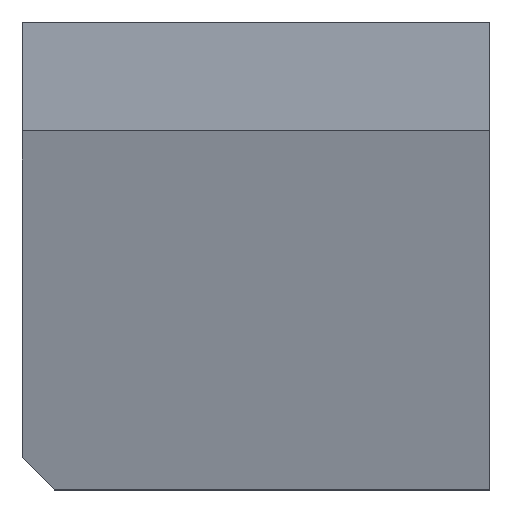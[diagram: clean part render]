
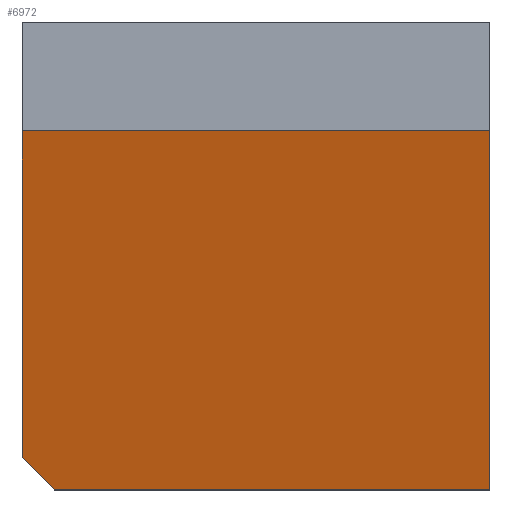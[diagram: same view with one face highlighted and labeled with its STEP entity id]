
A CAD part, left-side view. The second image highlights one B-rep face of the part: STEP entity #6972.
In plain terms, the highlighted planar face has unit normal (-0.943, 0.334, 0).
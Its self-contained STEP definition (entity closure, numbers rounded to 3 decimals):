
#898 = AXIS2_PLACEMENT_3D ( 'NONE', #17093, #25924, #21856 ) ;
#2643 = LINE ( 'NONE', #23575, #7269 ) ;
#2742 = CARTESIAN_POINT ( 'NONE',  ( -5.493, -14.5, 22.25 ) ) ;
#3150 = EDGE_CURVE ( 'NONE', #25749, #23700, #20579, .T. ) ;
#3753 = EDGE_CURVE ( 'NONE', #23700, #12405, #15183, .T. ) ;
#4851 = CARTESIAN_POINT ( 'NONE',  ( -0.988, -1.799, -14.299 ) ) ;
#5084 = LINE ( 'NONE', #28419, #11513 ) ;
#5927 = PLANE ( 'NONE',  #898 ) ;
#5947 = VECTOR ( 'NONE', #10858, 1000. ) ;
#6808 = EDGE_CURVE ( 'NONE', #25749, #17334, #2643, .T. ) ;
#6972 = ADVANCED_FACE ( 'NONE', ( #13383 ), #5927, .T. ) ;
#7251 = CARTESIAN_POINT ( 'NONE',  ( -5.493, -14.5, 0. ) ) ;
#7269 = VECTOR ( 'NONE', #9622, 1000. ) ;
#9622 = DIRECTION ( 'NONE',  ( 0., 0., 1. ) ) ;
#10034 = ORIENTED_EDGE ( 'NONE', *, *, #17751, .F. ) ;
#10858 = DIRECTION ( 'NONE',  ( -0.334, -0.942, 0. ) ) ;
#11513 = VECTOR ( 'NONE', #26236, 1000. ) ;
#11529 = ORIENTED_EDGE ( 'NONE', *, *, #3753, .T. ) ;
#11904 = CARTESIAN_POINT ( 'NONE',  ( 4.793, 14.5, 2. ) ) ;
#12288 = CARTESIAN_POINT ( 'NONE',  ( -5.493, -14.5, 0. ) ) ;
#12405 = VERTEX_POINT ( 'NONE', #7251 ) ;
#12630 = EDGE_CURVE ( 'NONE', #12405, #19209, #5084, .T. ) ;
#13383 = FACE_OUTER_BOUND ( 'NONE', #16929, .T. ) ;
#15183 = LINE ( 'NONE', #12288, #28331 ) ;
#16929 = EDGE_LOOP ( 'NONE', ( #21527, #18156, #11529, #27311, #10034 ) ) ;
#17093 = CARTESIAN_POINT ( 'NONE',  ( -5.493, -14.5, 0. ) ) ;
#17334 = VERTEX_POINT ( 'NONE', #29161 ) ;
#17751 = EDGE_CURVE ( 'NONE', #17334, #19209, #26230, .T. ) ;
#18156 = ORIENTED_EDGE ( 'NONE', *, *, #3150, .T. ) ;
#18676 = DIRECTION ( 'NONE',  ( -0.334, -0.942, 0. ) ) ;
#19209 = VERTEX_POINT ( 'NONE', #2742 ) ;
#19403 = DIRECTION ( 'NONE',  ( -0.243, -0.686, -0.686 ) ) ;
#20579 = LINE ( 'NONE', #4851, #21295 ) ;
#21295 = VECTOR ( 'NONE', #19403, 1000. ) ;
#21527 = ORIENTED_EDGE ( 'NONE', *, *, #6808, .F. ) ;
#21856 = DIRECTION ( 'NONE',  ( -0.334, -0.942, 0. ) ) ;
#23575 = CARTESIAN_POINT ( 'NONE',  ( 4.793, 14.5, 0. ) ) ;
#23700 = VERTEX_POINT ( 'NONE', #24967 ) ;
#24967 = CARTESIAN_POINT ( 'NONE',  ( 4.083, 12.5, 0. ) ) ;
#25749 = VERTEX_POINT ( 'NONE', #11904 ) ;
#25924 = DIRECTION ( 'NONE',  ( -0.942, 0.334, 0. ) ) ;
#26230 = LINE ( 'NONE', #29027, #5947 ) ;
#26236 = DIRECTION ( 'NONE',  ( 0., 0., 1. ) ) ;
#27311 = ORIENTED_EDGE ( 'NONE', *, *, #12630, .T. ) ;
#28331 = VECTOR ( 'NONE', #18676, 1000. ) ;
#28419 = CARTESIAN_POINT ( 'NONE',  ( -5.493, -14.5, 0. ) ) ;
#29027 = CARTESIAN_POINT ( 'NONE',  ( -5.493, -14.5, 22.25 ) ) ;
#29161 = CARTESIAN_POINT ( 'NONE',  ( 4.793, 14.5, 22.25 ) ) ;
